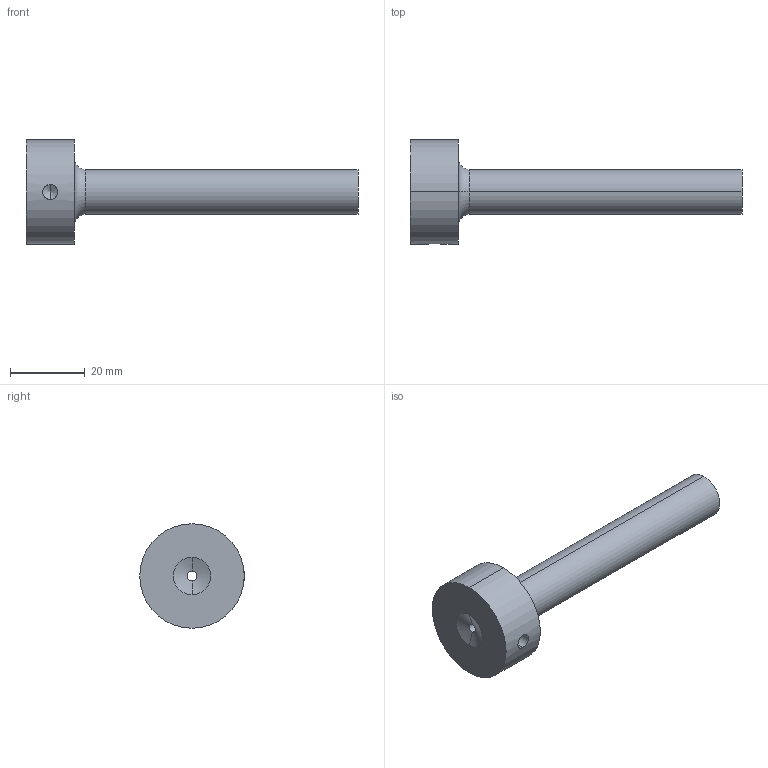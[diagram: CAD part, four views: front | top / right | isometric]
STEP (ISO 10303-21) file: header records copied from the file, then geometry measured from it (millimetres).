
FILE_DESCRIPTION (( 'STEP AP214' ), '1' );
FILE_NAME ('BR511 12X76X2,5X40.STEP', '2019-12-11T08:23:22', ( 'August' ), ( '' ), 'SwSTEP 2.0', 'SolidWorks 2018', '' );
FILE_SCHEMA (( 'AUTOMOTIVE_DESIGN' ));
Length unit declared in the file: millimetre
Products named in the file (1): BR511 12X76X2,5X40
Bounding box: 89 x 28 x 28 mm (x, y, z)
Volume: 15357.8 mm3; surface area: 6370.2 mm2
Topology: 1 solids, 1 shells, 17 faces, 36 edges, 21 vertices
Faces by surface type: cylinder 6, cone 4, torus 4, plane 3
Entity records: 538 total; most frequent: CARTESIAN_POINT 127, DIRECTION 90, ORIENTED_EDGE 68, AXIS2_PLACEMENT_3D 40, EDGE_CURVE 34, CIRCLE 22, VERTEX_POINT 21, EDGE_LOOP 21
